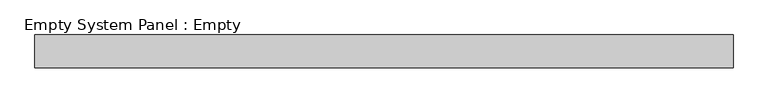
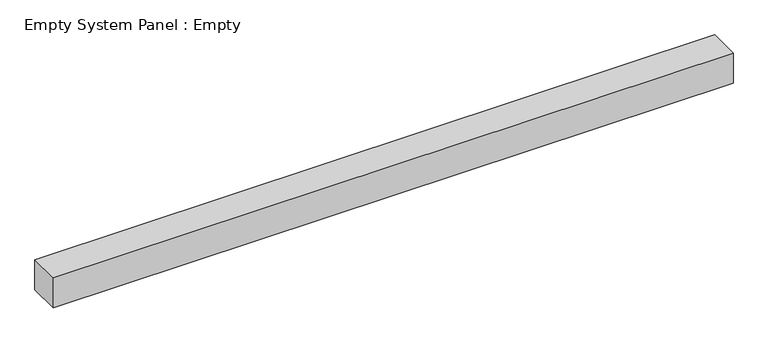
"""IFC4 building model written with IfcOpenShell, lengths in millimetres: plate geometry, Empty System Panel : Empty."""

from ifc_helpers import new_model, si_unit, origin, origin_with_axes, place, context, project, spatial, polyline, outline, extrude, source, transform, mapped, element, save


def empty_system_panel_empty_27f944e1(model_context):
    return source(origin(), model_context, "Body", "SweptSolid", [
        extrude(outline(polyline([(1067.1, -50.0), (-1067.1, -50.0), (-1067.1, 50.0), (1067.1, 50.0), (1067.1, -50.0)])), origin_with_axes(), (0.0, 0.0, 1.0), 100.0),
    ])


if __name__ == "__main__":
    model = new_model("IFC4")
    model_context = context("Model", 3, world=origin())
    ifc_project = project(units=[si_unit("LENGTHUNIT", "METRE", prefix="MILLI")], contexts=[model_context])
    site = spatial("IfcSite", under=ifc_project)
    building = spatial("IfcBuilding", under=site)
    placement = place(None, origin())
    empty_system_panel_empty_shape = empty_system_panel_empty_27f944e1(model_context)
    element("IfcPlate", 1, ObjectType="Empty System Panel : Empty", at=placement, inside=building, context=model_context, shape_type="MappedRepresentation", body=[
        mapped(empty_system_panel_empty_shape, transform((0.0, 0.0, 0.0), x_axis=(1.0, 0.0, 0.0), y_axis=(0.0, 1.0, 0.0), z_axis=(0.0, 0.0, 1.0))),
    ])
    save(model, "model.ifc")
